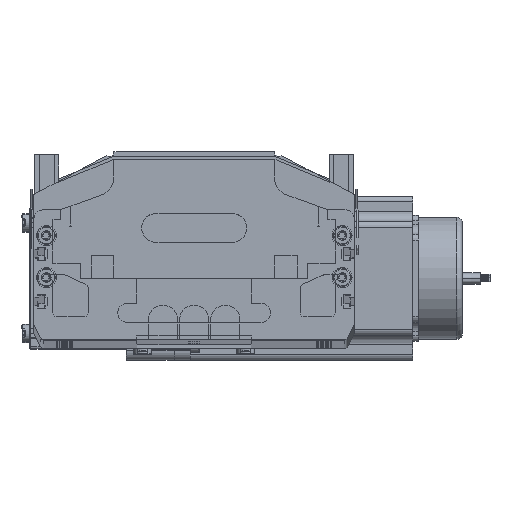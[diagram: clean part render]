
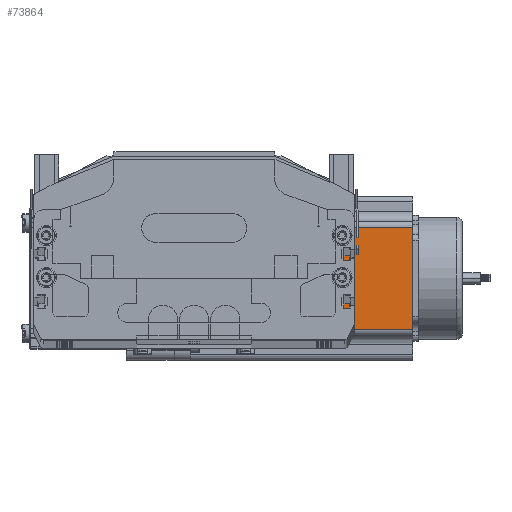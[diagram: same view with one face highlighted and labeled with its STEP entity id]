
A CAD part, top view. The second image highlights one B-rep face of the part: STEP entity #73864.
In plain terms, the highlighted planar face has unit normal (0, 0, 1) as drawn and (0, -1, 0) by its records, which use the part's own axes.
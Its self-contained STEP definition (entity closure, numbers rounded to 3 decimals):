
#20841 = CARTESIAN_POINT ( 'NONE',  ( 16.16, 0., 0. ) ) ;
#20844 = CARTESIAN_POINT ( 'NONE',  ( 16.16, 0., 116.5 ) ) ;
#20850 = PLANE ( 'NONE',  #20888 ) ;
#20882 = DIRECTION ( 'NONE',  ( 0., 0., 1. ) ) ;
#20883 = DIRECTION ( 'NONE',  ( 0., 1., 0. ) ) ;
#20886 = FACE_OUTER_BOUND ( 'NONE', #73857, .T. ) ;
#20888 = AXIS2_PLACEMENT_3D ( 'NONE', #20894, #20883, #20882 ) ;
#20892 = CARTESIAN_POINT ( 'NONE',  ( 69.74, 0., 0. ) ) ;
#20894 = CARTESIAN_POINT ( 'NONE',  ( 0., 0., 116.5 ) ) ;
#20913 = DIRECTION ( 'NONE',  ( 1., 0., 0. ) ) ;
#20914 = VECTOR ( 'NONE', #20913, 1000. ) ;
#20915 = CARTESIAN_POINT ( 'NONE',  ( 0., 0., 0. ) ) ;
#20916 = LINE ( 'NONE', #20915, #20914 ) ;
#20933 = CARTESIAN_POINT ( 'NONE',  ( 69.74, 0., 116.5 ) ) ;
#25487 = LINE ( 'NONE', #25582, #25574 ) ;
#25574 = VECTOR ( 'NONE', #25581, 1000. ) ;
#25581 = DIRECTION ( 'NONE',  ( 0., 0., -1. ) ) ;
#25582 = CARTESIAN_POINT ( 'NONE',  ( 16.16, 0., 116.5 ) ) ;
#25585 = DIRECTION ( 'NONE',  ( 1., 0., 0. ) ) ;
#25587 = VECTOR ( 'NONE', #25585, 1000. ) ;
#25588 = CARTESIAN_POINT ( 'NONE',  ( 0., 0., 116.5 ) ) ;
#25592 = LINE ( 'NONE', #25588, #25587 ) ;
#25598 = DIRECTION ( 'NONE',  ( 0., 0., 1. ) ) ;
#25600 = VECTOR ( 'NONE', #25598, 1000. ) ;
#25602 = CARTESIAN_POINT ( 'NONE',  ( 69.74, 0., 116.5 ) ) ;
#25604 = LINE ( 'NONE', #25602, #25600 ) ;
#73857 = EDGE_LOOP ( 'NONE', ( #74069, #73867, #74009, #74012 ) ) ;
#73859 = VERTEX_POINT ( 'NONE', #20841 ) ;
#73861 = VERTEX_POINT ( 'NONE', #20892 ) ;
#73864 = ADVANCED_FACE ( 'NONE', ( #20886 ), #20850, .F. ) ;
#73865 = VERTEX_POINT ( 'NONE', #20844 ) ;
#73867 = ORIENTED_EDGE ( 'NONE', *, *, #74004, .T. ) ;
#73887 = VERTEX_POINT ( 'NONE', #20933 ) ;
#73889 = EDGE_CURVE ( 'NONE', #73859, #73861, #20916, .T. ) ;
#74004 = EDGE_CURVE ( 'NONE', #73861, #73887, #25604, .T. ) ;
#74007 = EDGE_CURVE ( 'NONE', #73865, #73887, #25592, .T. ) ;
#74009 = ORIENTED_EDGE ( 'NONE', *, *, #74007, .F. ) ;
#74010 = EDGE_CURVE ( 'NONE', #73865, #73859, #25487, .T. ) ;
#74012 = ORIENTED_EDGE ( 'NONE', *, *, #74010, .T. ) ;
#74069 = ORIENTED_EDGE ( 'NONE', *, *, #73889, .T. ) ;
